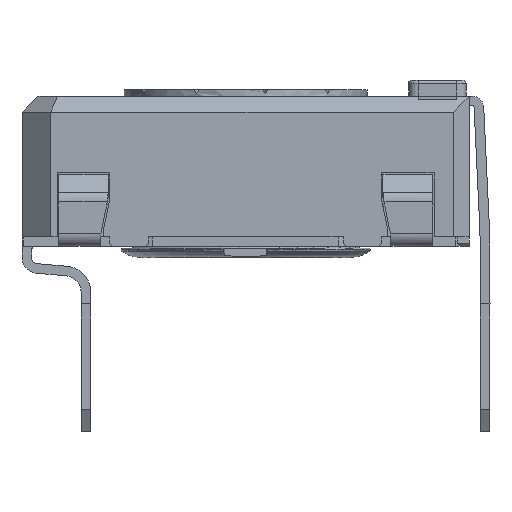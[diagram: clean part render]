
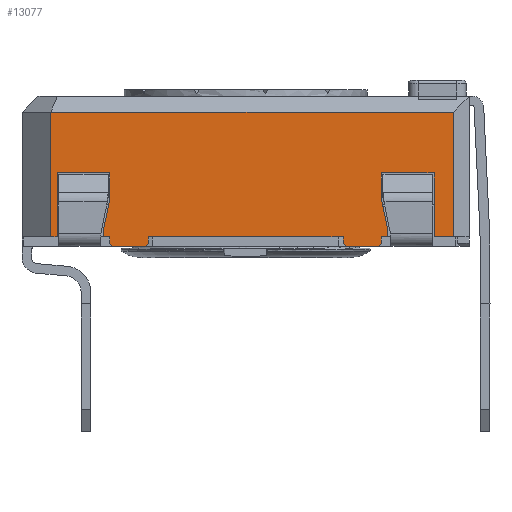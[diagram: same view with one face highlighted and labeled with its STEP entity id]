
A CAD part, left-side view. The second image highlights one B-rep face of the part: STEP entity #13077.
In plain terms, the highlighted planar face has unit normal (-1, 0, 0).
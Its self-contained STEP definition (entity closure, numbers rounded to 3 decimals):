
#1002=LINE('',#19946,#2502);
#1008=LINE('',#19958,#2508);
#1011=LINE('',#19965,#2511);
#1016=LINE('',#19974,#2516);
#1036=LINE('',#20015,#2536);
#1050=LINE('',#20041,#2550);
#1054=LINE('',#20048,#2554);
#1069=LINE('',#20077,#2569);
#1072=LINE('',#20083,#2572);
#1077=LINE('',#20093,#2577);
#1080=LINE('',#20099,#2580);
#1083=LINE('',#20105,#2583);
#1101=LINE('',#20140,#2601);
#1113=LINE('',#20162,#2613);
#1116=LINE('',#20168,#2616);
#1153=LINE('',#20302,#2653);
#1156=LINE('',#20308,#2656);
#1182=LINE('',#20355,#2682);
#1187=LINE('',#20365,#2687);
#1189=LINE('',#20368,#2689);
#1313=LINE('',#20676,#2813);
#1315=LINE('',#20681,#2815);
#1318=LINE('',#20685,#2818);
#1320=LINE('',#20689,#2820);
#1323=LINE('',#20697,#2823);
#1324=LINE('',#20699,#2824);
#1325=LINE('',#20700,#2825);
#1326=LINE('',#20701,#2826);
#2502=VECTOR('',#16042,10.);
#2508=VECTOR('',#16050,10.);
#2511=VECTOR('',#16055,10.);
#2516=VECTOR('',#16062,10.);
#2536=VECTOR('',#16096,10.);
#2550=VECTOR('',#16110,10.);
#2554=VECTOR('',#16114,10.);
#2569=VECTOR('',#16141,10.);
#2572=VECTOR('',#16146,10.);
#2577=VECTOR('',#16153,10.);
#2580=VECTOR('',#16158,10.);
#2583=VECTOR('',#16163,10.);
#2601=VECTOR('',#16183,10.);
#2613=VECTOR('',#16197,10.);
#2616=VECTOR('',#16202,10.);
#2653=VECTOR('',#16283,10.);
#2656=VECTOR('',#16288,10.);
#2682=VECTOR('',#16316,10.);
#2687=VECTOR('',#16323,10.);
#2689=VECTOR('',#16327,10.);
#2813=VECTOR('',#16619,10.);
#2815=VECTOR('',#16623,10.);
#2818=VECTOR('',#16628,10.);
#2820=VECTOR('',#16634,10.);
#2823=VECTOR('',#16645,10.);
#2824=VECTOR('',#16646,10.);
#2825=VECTOR('',#16647,10.);
#2826=VECTOR('',#16648,10.);
#3699=FACE_OUTER_BOUND('',#4393,.T.);
#4393=EDGE_LOOP('',(#10419,#10420,#10421,#10422,#10423,#10424,#10425,#10426,
#10427,#10428,#10429,#10430,#10431,#10432,#10433,#10434,#10435,#10436,#10437,
#10438,#10439,#10440,#10441,#10442,#10443,#10444,#10445,#10446));
#5624=VERTEX_POINT('',#19943);
#5625=VERTEX_POINT('',#19945);
#5629=VERTEX_POINT('',#19955);
#5631=VERTEX_POINT('',#19961);
#5633=VERTEX_POINT('',#19964);
#5636=VERTEX_POINT('',#19972);
#5661=VERTEX_POINT('',#20038);
#5662=VERTEX_POINT('',#20040);
#5664=VERTEX_POINT('',#20045);
#5665=VERTEX_POINT('',#20047);
#5672=VERTEX_POINT('',#20074);
#5674=VERTEX_POINT('',#20080);
#5678=VERTEX_POINT('',#20090);
#5680=VERTEX_POINT('',#20096);
#5683=VERTEX_POINT('',#20103);
#5699=VERTEX_POINT('',#20138);
#5708=VERTEX_POINT('',#20160);
#5710=VERTEX_POINT('',#20166);
#5737=VERTEX_POINT('',#20300);
#5738=VERTEX_POINT('',#20305);
#5758=VERTEX_POINT('',#20352);
#5762=VERTEX_POINT('',#20362);
#5836=VERTEX_POINT('',#20673);
#5837=VERTEX_POINT('',#20675);
#5838=VERTEX_POINT('',#20679);
#5839=VERTEX_POINT('',#20680);
#5840=VERTEX_POINT('',#20696);
#5841=VERTEX_POINT('',#20698);
#7137=EDGE_CURVE('',#5625,#5624,#1002,.T.);
#7143=EDGE_CURVE('',#5624,#5629,#1008,.T.);
#7146=EDGE_CURVE('',#5633,#5631,#1011,.T.);
#7151=EDGE_CURVE('',#5636,#5631,#1016,.T.);
#7171=EDGE_CURVE('',#5629,#5633,#1036,.T.);
#7185=EDGE_CURVE('',#5662,#5661,#1050,.T.);
#7189=EDGE_CURVE('',#5665,#5664,#1054,.T.);
#7205=EDGE_CURVE('',#5661,#5672,#1069,.T.);
#7208=EDGE_CURVE('',#5672,#5674,#1072,.T.);
#7213=EDGE_CURVE('',#5674,#5678,#1077,.T.);
#7216=EDGE_CURVE('',#5678,#5680,#1080,.T.);
#7219=EDGE_CURVE('',#5680,#5683,#1083,.T.);
#7237=EDGE_CURVE('',#5683,#5699,#1101,.T.);
#7249=EDGE_CURVE('',#5708,#5699,#1113,.T.);
#7252=EDGE_CURVE('',#5710,#5708,#1116,.T.);
#7301=EDGE_CURVE('',#5737,#5710,#1153,.T.);
#7304=EDGE_CURVE('',#5737,#5738,#1156,.T.);
#7330=EDGE_CURVE('',#5738,#5758,#1182,.T.);
#7335=EDGE_CURVE('',#5758,#5762,#1187,.T.);
#7337=EDGE_CURVE('',#5762,#5625,#1189,.T.);
#7477=EDGE_CURVE('',#5836,#5837,#1313,.T.);
#7479=EDGE_CURVE('',#5838,#5839,#1315,.T.);
#7482=EDGE_CURVE('',#5662,#5836,#1318,.T.);
#7484=EDGE_CURVE('',#5664,#5839,#1320,.T.);
#7487=EDGE_CURVE('',#5636,#5840,#1323,.T.);
#7488=EDGE_CURVE('',#5841,#5840,#1324,.T.);
#7489=EDGE_CURVE('',#5665,#5841,#1325,.T.);
#7490=EDGE_CURVE('',#5838,#5837,#1326,.T.);
#10419=ORIENTED_EDGE('',*,*,#7143,.T.);
#10420=ORIENTED_EDGE('',*,*,#7171,.T.);
#10421=ORIENTED_EDGE('',*,*,#7146,.T.);
#10422=ORIENTED_EDGE('',*,*,#7151,.F.);
#10423=ORIENTED_EDGE('',*,*,#7487,.T.);
#10424=ORIENTED_EDGE('',*,*,#7488,.F.);
#10425=ORIENTED_EDGE('',*,*,#7489,.F.);
#10426=ORIENTED_EDGE('',*,*,#7189,.T.);
#10427=ORIENTED_EDGE('',*,*,#7484,.T.);
#10428=ORIENTED_EDGE('',*,*,#7479,.F.);
#10429=ORIENTED_EDGE('',*,*,#7490,.T.);
#10430=ORIENTED_EDGE('',*,*,#7477,.F.);
#10431=ORIENTED_EDGE('',*,*,#7482,.F.);
#10432=ORIENTED_EDGE('',*,*,#7185,.T.);
#10433=ORIENTED_EDGE('',*,*,#7205,.T.);
#10434=ORIENTED_EDGE('',*,*,#7208,.T.);
#10435=ORIENTED_EDGE('',*,*,#7213,.T.);
#10436=ORIENTED_EDGE('',*,*,#7216,.T.);
#10437=ORIENTED_EDGE('',*,*,#7219,.T.);
#10438=ORIENTED_EDGE('',*,*,#7237,.T.);
#10439=ORIENTED_EDGE('',*,*,#7249,.F.);
#10440=ORIENTED_EDGE('',*,*,#7252,.F.);
#10441=ORIENTED_EDGE('',*,*,#7301,.F.);
#10442=ORIENTED_EDGE('',*,*,#7304,.T.);
#10443=ORIENTED_EDGE('',*,*,#7330,.T.);
#10444=ORIENTED_EDGE('',*,*,#7335,.T.);
#10445=ORIENTED_EDGE('',*,*,#7337,.T.);
#10446=ORIENTED_EDGE('',*,*,#7137,.T.);
#12235=PLANE('',#13967);
#13077=ADVANCED_FACE('',(#3699),#12235,.T.);
#13967=AXIS2_PLACEMENT_3D('',#20695,#16643,#16644);
#16042=DIRECTION('',(0.,0.208,-0.978));
#16050=DIRECTION('',(0.,0.,-1.));
#16055=DIRECTION('',(0.,0.,-1.));
#16062=DIRECTION('',(0.,0.707,0.707));
#16096=DIRECTION('',(0.,-1.,0.));
#16110=DIRECTION('',(0.,-1.,0.));
#16114=DIRECTION('',(0.,-1.,0.));
#16141=DIRECTION('',(0.,0.,1.));
#16146=DIRECTION('',(0.,0.208,0.978));
#16153=DIRECTION('',(0.,0.,1.));
#16158=DIRECTION('',(0.,-1.,0.));
#16163=DIRECTION('',(0.,0.,-1.));
#16183=DIRECTION('',(0.,-1.,0.));
#16197=DIRECTION('',(0.,0.,-1.));
#16202=DIRECTION('',(0.,-1.,0.));
#16283=DIRECTION('',(0.,0.,1.));
#16288=DIRECTION('',(0.,-1.,0.));
#16316=DIRECTION('',(0.,0.,1.));
#16323=DIRECTION('',(0.,-1.,0.));
#16327=DIRECTION('',(0.,0.,-1.));
#16619=DIRECTION('',(0.,0.707,-0.707));
#16623=DIRECTION('',(0.,0.707,0.707));
#16628=DIRECTION('',(0.,0.,-1.));
#16634=DIRECTION('',(0.,0.,-1.));
#16643=DIRECTION('center_axis',(-1.,0.,0.));
#16644=DIRECTION('ref_axis',(0.,0.,1.));
#16645=DIRECTION('',(0.,-1.,0.));
#16646=DIRECTION('',(0.,0.707,-0.707));
#16647=DIRECTION('',(0.,0.,-1.));
#16648=DIRECTION('',(0.,-1.,0.));
#19943=CARTESIAN_POINT('',(-14.467,1.552,0.235));
#19945=CARTESIAN_POINT('',(-14.467,1.352,1.176));
#19946=CARTESIAN_POINT('',(-14.467,1.228,1.757));
#19955=CARTESIAN_POINT('',(-14.467,1.552,0.));
#19958=CARTESIAN_POINT('',(-14.467,1.552,0.));
#19961=CARTESIAN_POINT('',(-14.467,1.352,-0.2));
#19964=CARTESIAN_POINT('',(-14.467,1.352,0.));
#19965=CARTESIAN_POINT('',(-14.467,1.352,0.));
#19972=CARTESIAN_POINT('',(-14.467,1.252,-0.3));
#19974=CARTESIAN_POINT('',(-14.467,-1.436,-2.988));
#20015=CARTESIAN_POINT('',(-14.467,4.102,0.));
#20038=CARTESIAN_POINT('',(-14.467,-7.348,0.));
#20040=CARTESIAN_POINT('',(-14.467,-7.148,0.));
#20041=CARTESIAN_POINT('',(-14.467,4.102,0.));
#20045=CARTESIAN_POINT('',(-14.467,-5.948,0.));
#20047=CARTESIAN_POINT('',(-14.467,0.152,0.));
#20048=CARTESIAN_POINT('',(-14.467,4.102,0.));
#20074=CARTESIAN_POINT('',(-14.467,-7.348,0.235));
#20077=CARTESIAN_POINT('',(-14.467,-7.348,0.118));
#20080=CARTESIAN_POINT('',(-14.467,-7.148,1.176));
#20083=CARTESIAN_POINT('',(-14.467,-7.453,-0.254));
#20090=CARTESIAN_POINT('',(-14.467,-7.148,2.));
#20093=CARTESIAN_POINT('',(-14.467,-7.148,0.588));
#20096=CARTESIAN_POINT('',(-14.467,-8.798,2.));
#20099=CARTESIAN_POINT('',(-14.467,-8.523,2.));
#20103=CARTESIAN_POINT('',(-14.467,-8.798,0.));
#20105=CARTESIAN_POINT('',(-14.467,-8.798,0.));
#20138=CARTESIAN_POINT('',(-14.467,-9.398,0.));
#20140=CARTESIAN_POINT('',(-14.467,-9.595,0.));
#20160=CARTESIAN_POINT('',(-14.467,-9.398,3.9));
#20162=CARTESIAN_POINT('',(-14.467,-9.398,0.));
#20166=CARTESIAN_POINT('',(-14.467,3.202,3.9));
#20168=CARTESIAN_POINT('',(-14.467,-6.398,3.9));
#20300=CARTESIAN_POINT('',(-14.467,3.202,0.));
#20302=CARTESIAN_POINT('',(-14.467,3.202,0.));
#20305=CARTESIAN_POINT('',(-14.467,3.002,0.));
#20308=CARTESIAN_POINT('',(-14.467,-2.985,0.));
#20352=CARTESIAN_POINT('',(-14.467,3.002,2.));
#20355=CARTESIAN_POINT('',(-14.467,3.002,0.));
#20362=CARTESIAN_POINT('',(-14.467,1.352,2.));
#20365=CARTESIAN_POINT('',(-14.467,-3.448,2.));
#20368=CARTESIAN_POINT('',(-14.467,1.352,1.));
#20673=CARTESIAN_POINT('',(-14.467,-7.148,-0.2));
#20675=CARTESIAN_POINT('',(-14.467,-7.048,-0.3));
#20676=CARTESIAN_POINT('',(-14.467,-7.861,0.513));
#20679=CARTESIAN_POINT('',(-14.467,-6.048,-0.3));
#20680=CARTESIAN_POINT('',(-14.467,-5.948,-0.2));
#20681=CARTESIAN_POINT('',(-14.467,-6.911,-1.163));
#20685=CARTESIAN_POINT('',(-14.467,-7.148,0.));
#20689=CARTESIAN_POINT('',(-14.467,-5.948,0.));
#20695=CARTESIAN_POINT('Origin',(-14.467,-9.898,0.));
#20696=CARTESIAN_POINT('',(-14.467,0.252,-0.3));
#20697=CARTESIAN_POINT('',(-14.467,0.152,-0.3));
#20698=CARTESIAN_POINT('',(-14.467,0.152,-0.2));
#20699=CARTESIAN_POINT('',(-14.467,-2.386,2.338));
#20700=CARTESIAN_POINT('',(-14.467,0.152,0.));
#20701=CARTESIAN_POINT('',(-14.467,-7.148,-0.3));
